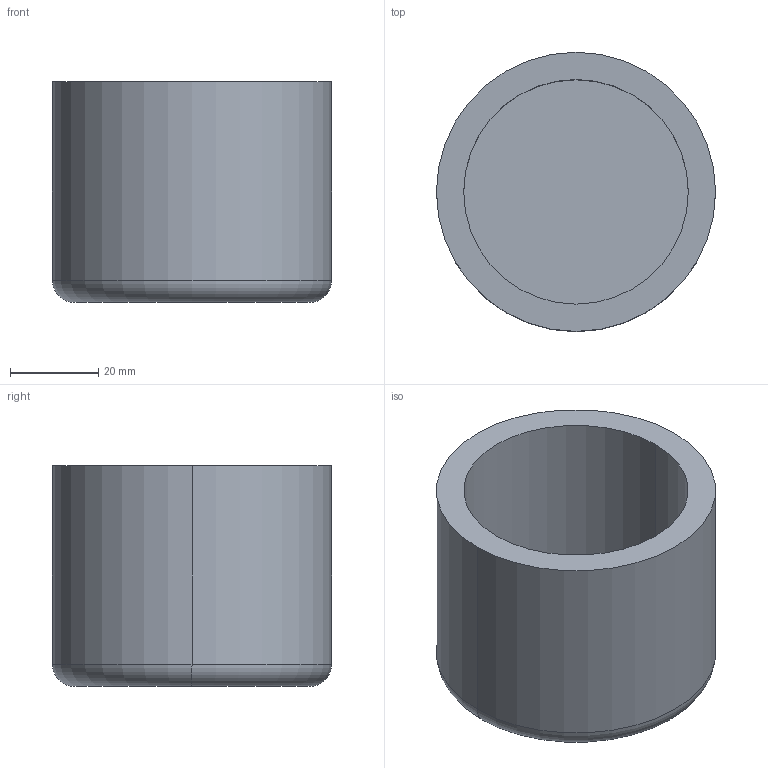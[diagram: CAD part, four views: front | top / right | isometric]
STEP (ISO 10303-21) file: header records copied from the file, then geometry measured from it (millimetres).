
FILE_DESCRIPTION (( 'STEP AP203' ), '1' );
FILE_NAME ('KP_10-63.step', '2011-08-08T11:42:00', ( '' ), ( '' ), 'SwSTEP 2.0', 'SolidWorks 2011', '' );
FILE_SCHEMA (( 'CONFIG_CONTROL_DESIGN' ));
Length unit declared in the file: millimetre
Products named in the file (1): KP_10-63
Bounding box: 63.25 x 63.25 x 50 mm (x, y, z)
Volume: 66541.3 mm3; surface area: 22817.7 mm2
Topology: 1 solids, 1 shells, 9 faces, 16 edges, 10 vertices
Faces by surface type: cylinder 4, plane 3, torus 2
Entity records: 303 total; most frequent: DIRECTION 48, CARTESIAN_POINT 36, ORIENTED_EDGE 32, AXIS2_PLACEMENT_3D 22, EDGE_CURVE 16, CIRCLE 12, EDGE_LOOP 10, VERTEX_POINT 10
